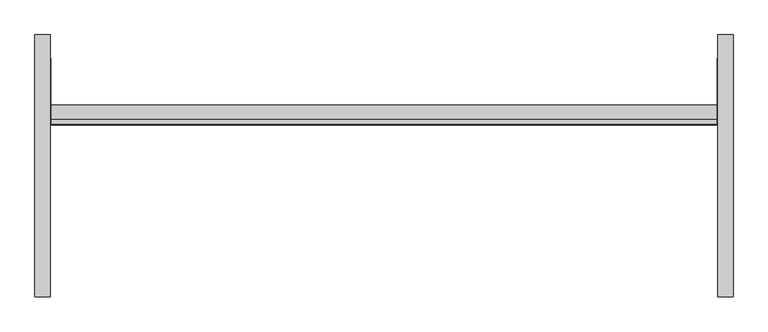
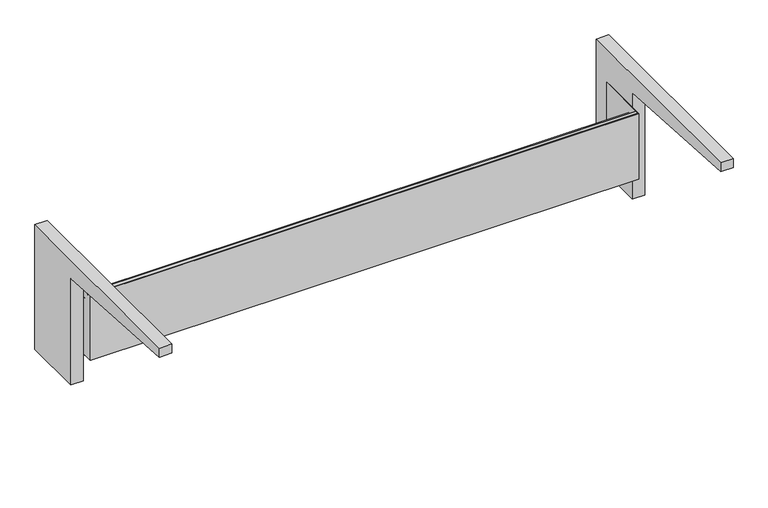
"""IFC4 building model written with IfcOpenShell, lengths in millimetres: furniture geometry."""

from ifc_helpers import new_model, si_unit, point, frame, frame_2d, origin, place, context, project, spatial, polyline, circle_curve, trimmed, segment, composite_curve, outline, extrude, source, transform, mapped, element, save


def furniture_7098341d(model_context):
    return source(origin(), model_context, "Body", "SweptSolid", [
        extrude(outline(composite_curve([segment(polyline([(177.8, 882.65), (177.8, 533.4), (12.7, 533.4), (12.7, 831.85)]), True, "CONTINUOUS"), segment(trimmed(circle_curve(frame_2d((-388.143904, -2317.7524637)), 3175.0073252), [point((12.7, 831.85))], [point((-393.7, 857.25))], True, "CARTESIAN"), True, "CONTINUOUS"), segment(polyline([(-393.7, 857.25), (-393.7, 882.65), (177.8, 882.65)]), True, "CONTINUOUS")], self_intersect=False)), frame((727.075, 0.0, 0.0), z_axis=(1.0, 0.0, 0.0), x_axis=(0.0, 1.0, 0.0)), (0.0, 0.0, 1.0), 33.3375),
        extrude(outline(composite_curve([segment(polyline([(-393.7, 857.25), (-393.7, 882.65), (177.8, 882.65), (177.8, 533.4), (12.7, 533.4), (12.7, 831.85)]), True, "CONTINUOUS"), segment(trimmed(circle_curve(frame_2d((-388.143904, -2317.7524637)), 3175.0073252), [point((12.7, 831.85))], [point((-393.7, 857.25))], True, "CARTESIAN"), True, "CONTINUOUS")], self_intersect=False)), frame((-760.4125, 0.0, 0.0), z_axis=(1.0, 0.0, 0.0), x_axis=(0.0, 1.0, 0.0)), (0.0, 0.0, 1.0), 33.3375),
        extrude(outline(polyline([(-725.4875, -17.4625), (725.4875, -17.4625), (725.4875, 127.0), (727.075, 127.0), (727.075, -19.05), (-727.075, -19.05), (-727.075, 127.0), (-725.4875, 127.0), (-725.4875, -17.4625)])), frame((0.0, 0.0, 608.9396), z_axis=(0.0, 0.0, 1.0), x_axis=(1.0, 0.0, 0.0)), (0.0, 0.0, 1.0), 184.15),
        extrude(outline(polyline([(-7.9057553, 792.29585), (-17.4625, 792.29585), (-17.4625, 770.07085), (24.1300012, 770.07085), (24.1300012, 608.9396), (-19.05, 608.9396), (-19.05, 793.0896), (-7.1120053, 793.0896), (-7.1120053, 786.0791994), (-7.9057553, 786.0791994), (-7.9057553, 792.29585)])), frame((-727.075, 0.0, 0.0), z_axis=(1.0, 0.0, 0.0), x_axis=(0.0, 1.0, 0.0)), (0.0, 0.0, 1.0), 1454.15),
    ])


if __name__ == "__main__":
    model = new_model("IFC4")
    model_context = context("Model", 3, world=origin())
    ifc_project = project(units=[si_unit("LENGTHUNIT", "METRE", prefix="MILLI")], contexts=[model_context])
    site = spatial("IfcSite", under=ifc_project)
    building = spatial("IfcBuilding", under=site)
    placement = place(None, origin())
    furniture_shape = furniture_7098341d(model_context)
    element("IfcFurniture", 1, ObjectType="HermanMiller_CoStruc_C2140W_WorkSurfaceSupport_ComponentAdaptor : 14\"H x 24\"D x 60\"W", at=placement, inside=building, context=model_context, shape_type="MappedRepresentation", body=[
        mapped(furniture_shape, transform((0.0, 0.0, 0.0), x_axis=(1.0, 0.0, 0.0), y_axis=(0.0, 1.0, 0.0), z_axis=(0.0, 0.0, 1.0))),
    ])
    save(model, "model.ifc")
